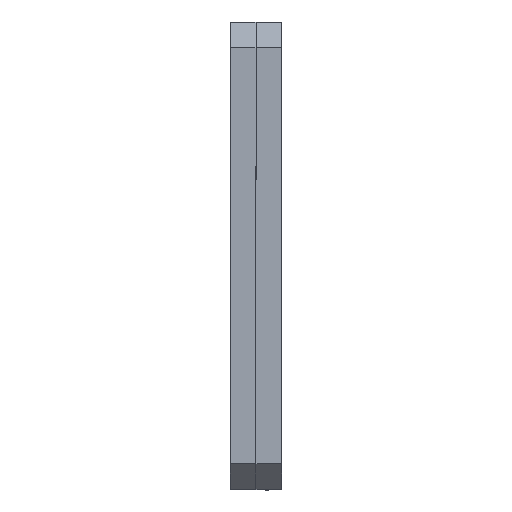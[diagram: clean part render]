
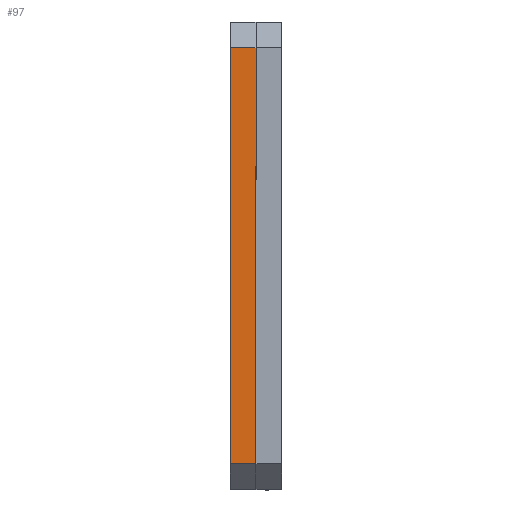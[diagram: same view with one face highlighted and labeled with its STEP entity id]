
A CAD part, top view. The second image highlights one B-rep face of the part: STEP entity #97.
In plain terms, the highlighted planar face has unit normal (0, 0, 1).
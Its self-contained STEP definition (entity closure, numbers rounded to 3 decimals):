
#7 = EDGE_CURVE ( 'NONE', #336, #622, #1413, .T. ) ;
#23 = EDGE_CURVE ( 'NONE', #336, #337, #1385, .T. ) ;
#45 = PLANE ( 'NONE',  #678 ) ;
#48 = CARTESIAN_POINT ( 'NONE',  ( -2., 39.493, 37.6 ) ) ;
#54 = DIRECTION ( 'NONE',  ( 0., 0., 1. ) ) ;
#55 = DIRECTION ( 'NONE',  ( 0., 1., 0. ) ) ;
#97 = ADVANCED_FACE ( 'NONE', ( #1323 ), #45, .T. ) ;
#277 = EDGE_CURVE ( 'NONE', #337, #621, #793, .T. ) ;
#336 = VERTEX_POINT ( 'NONE', #511 ) ;
#337 = VERTEX_POINT ( 'NONE', #512 ) ;
#361 = CARTESIAN_POINT ( 'NONE',  ( -2., 39.493, 37.6 ) ) ;
#362 = DIRECTION ( 'NONE',  ( 1., 0., 0. ) ) ;
#419 = DIRECTION ( 'NONE',  ( 0., -1., 0. ) ) ;
#511 = CARTESIAN_POINT ( 'NONE',  ( -4., -25.493, 37.6 ) ) ;
#512 = CARTESIAN_POINT ( 'NONE',  ( -4., 39.493, 37.6 ) ) ;
#521 = CARTESIAN_POINT ( 'NONE',  ( 0., 39.493, 37.6 ) ) ;
#522 = CARTESIAN_POINT ( 'NONE',  ( 0., -25.493, 37.6 ) ) ;
#567 = CARTESIAN_POINT ( 'NONE',  ( 0., 39.493, 37.6 ) ) ;
#621 = VERTEX_POINT ( 'NONE', #521 ) ;
#622 = VERTEX_POINT ( 'NONE', #522 ) ;
#678 = AXIS2_PLACEMENT_3D ( 'NONE', #48, #54, #55 ) ;
#709 = EDGE_CURVE ( 'NONE', #621, #622, #829, .T. ) ;
#792 = VECTOR ( 'NONE', #362, 1000. ) ;
#793 = LINE ( 'NONE', #361, #792 ) ;
#829 = LINE ( 'NONE', #567, #835 ) ;
#835 = VECTOR ( 'NONE', #419, 1000. ) ;
#999 = CARTESIAN_POINT ( 'NONE',  ( -2., -25.493, 37.6 ) ) ;
#1002 = DIRECTION ( 'NONE',  ( 1., 0., 0. ) ) ;
#1123 = EDGE_LOOP ( 'NONE', ( #1268, #1457, #1269, #1148 ) ) ;
#1148 = ORIENTED_EDGE ( 'NONE', *, *, #7, .T. ) ;
#1268 = ORIENTED_EDGE ( 'NONE', *, *, #709, .F. ) ;
#1269 = ORIENTED_EDGE ( 'NONE', *, *, #23, .F. ) ;
#1323 = FACE_OUTER_BOUND ( 'NONE', #1123, .T. ) ;
#1377 = VECTOR ( 'NONE', #1580, 1000. ) ;
#1385 = LINE ( 'NONE', #1577, #1377 ) ;
#1408 = VECTOR ( 'NONE', #1002, 1000. ) ;
#1413 = LINE ( 'NONE', #999, #1408 ) ;
#1457 = ORIENTED_EDGE ( 'NONE', *, *, #277, .F. ) ;
#1577 = CARTESIAN_POINT ( 'NONE',  ( -4., -25.493, 37.6 ) ) ;
#1580 = DIRECTION ( 'NONE',  ( 0., 1., 0. ) ) ;
